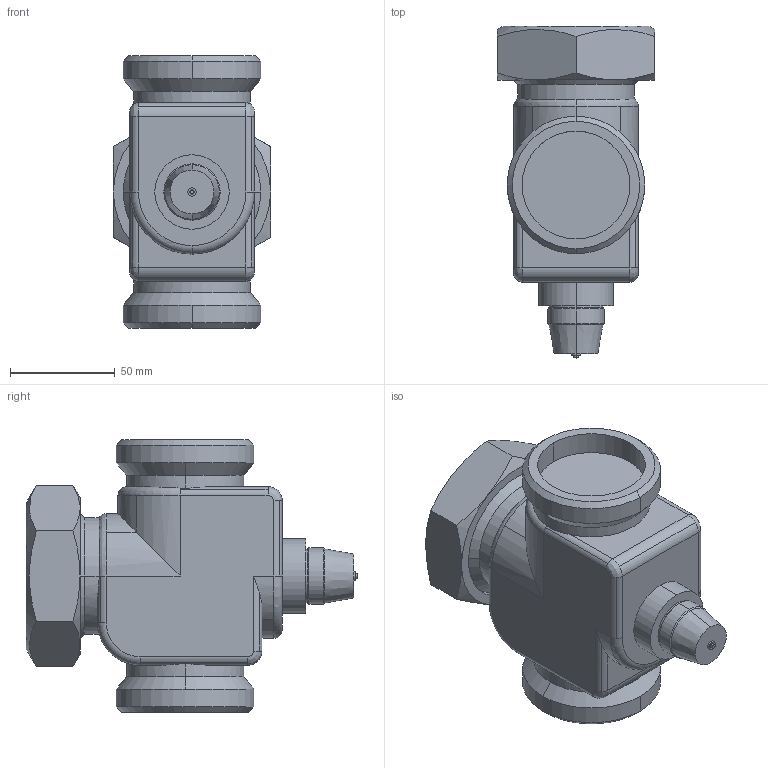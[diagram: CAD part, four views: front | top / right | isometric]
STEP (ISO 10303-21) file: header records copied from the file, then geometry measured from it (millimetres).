
FILE_DESCRIPTION((''),'2;1');
FILE_NAME('000164.stp','2006-09-29T17:20:00',(''),(''),'Mechanical Desktop 2006','Mechanical Desktop 2006',', , ');
FILE_SCHEMA(('AUTOMOTIVE_DESIGN { 1 2 10303 214 0 1 1 1 }'));
Length unit declared in the file: millimetre
Products named in the file (1): Product
Bounding box: 75.1 x 158.5 x 130 mm (x, y, z)
Volume: 636550.9 mm3; surface area: 87719.1 mm2
Topology: 11 solids, 11 shells, 152 faces, 341 edges, 212 vertices
Faces by surface type: cylinder 62, bspline 40, plane 32, cone 10, torus 8
Entity records: 4971 total; most frequent: CARTESIAN_POINT 1606, DIRECTION 707, ORIENTED_EDGE 682, EDGE_CURVE 341, AXIS2_PLACEMENT_3D 289, VERTEX_POINT 212, CIRCLE 172, EDGE_LOOP 159
